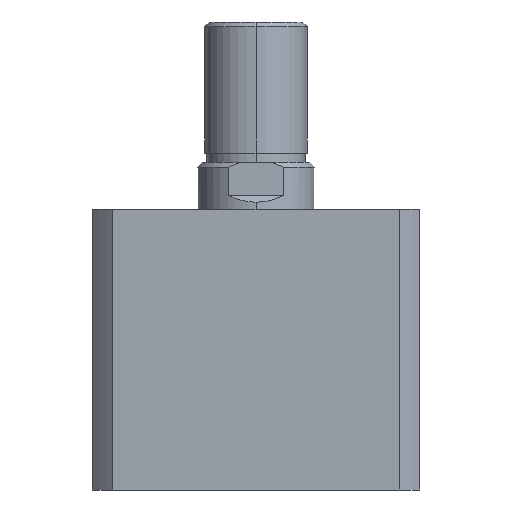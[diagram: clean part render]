
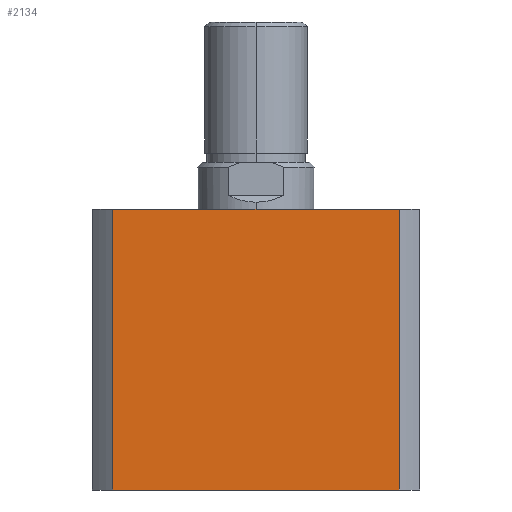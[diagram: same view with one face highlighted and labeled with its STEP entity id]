
A CAD part, left-side view. The second image highlights one B-rep face of the part: STEP entity #2134.
In plain terms, the highlighted planar face has unit normal (-1, 0, 0).
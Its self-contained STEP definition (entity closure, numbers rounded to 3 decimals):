
#422 = FACE_OUTER_BOUND ( 'NONE', #3578, .T. ) ;
#628 = LINE ( 'NONE', #3215, #634 ) ;
#630 = LINE ( 'NONE', #3213, #632 ) ;
#632 = VECTOR ( 'NONE', #3210, 1000. ) ;
#633 = LINE ( 'NONE', #3221, #636 ) ;
#634 = VECTOR ( 'NONE', #3220, 1000. ) ;
#636 = VECTOR ( 'NONE', #3223, 1000. ) ;
#845 = EDGE_CURVE ( 'NONE', #3776, #3775, #2271, .T. ) ;
#1339 = CARTESIAN_POINT ( 'NONE',  ( -35., -30.615, 0. ) ) ;
#1340 = CARTESIAN_POINT ( 'NONE',  ( -35., 30.615, 0. ) ) ;
#1360 = CARTESIAN_POINT ( 'NONE',  ( -35., -30.615, 60. ) ) ;
#1361 = CARTESIAN_POINT ( 'NONE',  ( -35., 30.615, 60. ) ) ;
#1917 = AXIS2_PLACEMENT_3D ( 'NONE', #4555, #4560, #4561 ) ;
#2134 = ADVANCED_FACE ( 'NONE', ( #422 ), #4557, .F. ) ;
#2268 = VECTOR ( 'NONE', #3485, 1000. ) ;
#2271 = LINE ( 'NONE', #3481, #2268 ) ;
#2451 = EDGE_CURVE ( 'NONE', #3776, #3755, #630, .T. ) ;
#2452 = EDGE_CURVE ( 'NONE', #3755, #3754, #628, .T. ) ;
#2453 = EDGE_CURVE ( 'NONE', #3775, #3754, #633, .T. ) ;
#3210 = DIRECTION ( 'NONE',  ( 0., 0., -1. ) ) ;
#3213 = CARTESIAN_POINT ( 'NONE',  ( -35., 30.615, 60. ) ) ;
#3215 = CARTESIAN_POINT ( 'NONE',  ( -35., 0., 0. ) ) ;
#3220 = DIRECTION ( 'NONE',  ( 0., -1., 0. ) ) ;
#3221 = CARTESIAN_POINT ( 'NONE',  ( -35., -30.615, 60. ) ) ;
#3223 = DIRECTION ( 'NONE',  ( 0., 0., -1. ) ) ;
#3481 = CARTESIAN_POINT ( 'NONE',  ( -35., 0., 60. ) ) ;
#3485 = DIRECTION ( 'NONE',  ( 0., -1., 0. ) ) ;
#3578 = EDGE_LOOP ( 'NONE', ( #3987, #3988, #3989, #3990 ) ) ;
#3754 = VERTEX_POINT ( 'NONE', #1339 ) ;
#3755 = VERTEX_POINT ( 'NONE', #1340 ) ;
#3775 = VERTEX_POINT ( 'NONE', #1360 ) ;
#3776 = VERTEX_POINT ( 'NONE', #1361 ) ;
#3987 = ORIENTED_EDGE ( 'NONE', *, *, #2452, .T. ) ;
#3988 = ORIENTED_EDGE ( 'NONE', *, *, #2453, .F. ) ;
#3989 = ORIENTED_EDGE ( 'NONE', *, *, #845, .F. ) ;
#3990 = ORIENTED_EDGE ( 'NONE', *, *, #2451, .T. ) ;
#4555 = CARTESIAN_POINT ( 'NONE',  ( -35., 0., 60. ) ) ;
#4557 = PLANE ( 'NONE',  #1917 ) ;
#4560 = DIRECTION ( 'NONE',  ( 1., 0., 0. ) ) ;
#4561 = DIRECTION ( 'NONE',  ( 0., 1., 0. ) ) ;
